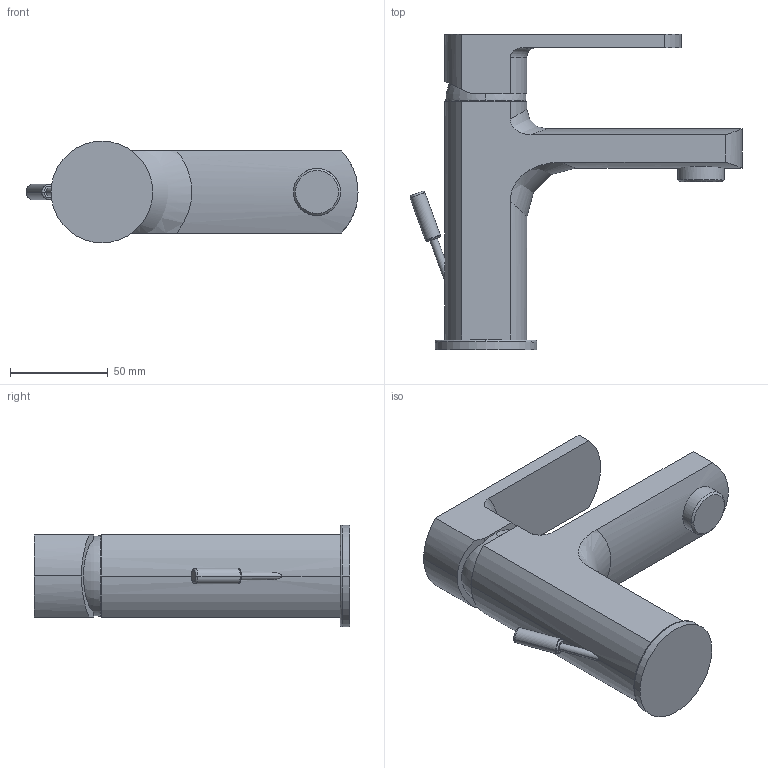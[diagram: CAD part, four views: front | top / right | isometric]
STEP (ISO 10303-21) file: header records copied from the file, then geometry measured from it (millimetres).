
FILE_DESCRIPTION(('CoCreate Modeling STEP Export'),'2;1');
FILE_NAME('86.211.stp','2012-06-04T10:06:25',(''),(''),'CoCreate Modeling STEP processor for AP214 (Solid Model)','CoCreate Modeling 17.0 01-Apr-2010 (C) Parametric Technology GmbH','');
FILE_SCHEMA(('AUTOMOTIVE_DESIGN { 1 0 10303 214 1 1 1 1 }'));
Length unit declared in the file: millimetre
Products named in the file (3): areat; 86.211.stp
Assembly tree (2 placements, depth 3):
  86.211.stp
    areat
      areat
Bounding box: 169.82 x 161.5 x 52 mm (x, y, z)
Volume: 363166.4 mm3; surface area: 51643.4 mm2
Topology: 1 solids, 2 shells, 64 faces, 157 edges, 101 vertices
Faces by surface type: cylinder 26, plane 17, torus 13, cone 6, bspline 2
Entity records: 6130 total; most frequent: CARTESIAN_POINT 4751, ORIENTED_EDGE 314, DIRECTION 219, EDGE_CURVE 157, VERTEX_POINT 101, AXIS2_PLACEMENT_3D 83, EDGE_LOOP 68, FACE_OUTER_BOUND 64
